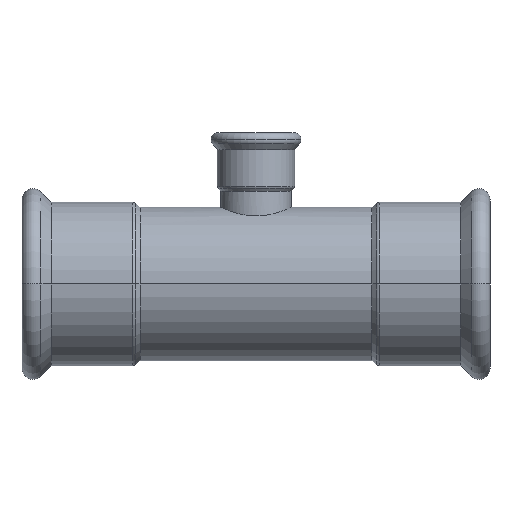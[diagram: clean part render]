
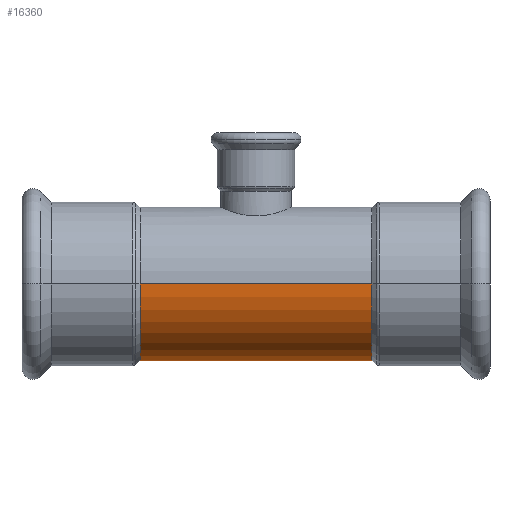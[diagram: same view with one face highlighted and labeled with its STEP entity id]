
A CAD part, front view. The second image highlights one B-rep face of the part: STEP entity #16360.
In plain terms, the highlighted cylindrical face has radius 38.05 mm (diameter 76.1 mm), a partial arc.
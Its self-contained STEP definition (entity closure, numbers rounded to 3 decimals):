
#2530=CARTESIAN_POINT('',(-346.011,147.522,-38.05));
#2540=VERTEX_POINT('',#2530);
#2720=CARTESIAN_POINT('',(-346.011,147.522,38.05));
#2730=VERTEX_POINT('',#2720);
#2760=CARTESIAN_POINT('',(-346.011,147.522,0.));
#2770=DIRECTION('',(1.,0.,0.));
#2780=DIRECTION('',(0.,0.,-1.));
#2790=AXIS2_PLACEMENT_3D('',#2760,#2770,#2780);
#2800=CIRCLE('',#2790,38.05);
#2810=EDGE_CURVE('',#2730,#2540,#2800,.T.);
#4440=CARTESIAN_POINT('',(-231.011,147.522,0.));
#4450=DIRECTION('',(1.,0.,0.));
#4460=DIRECTION('',(0.,0.,-1.));
#4470=AXIS2_PLACEMENT_3D('',#4440,#4450,#4460);
#4480=CYLINDRICAL_SURFACE('',#4470,38.05);
#15870=CARTESIAN_POINT('',(-231.011,147.522,38.05));
#15880=VERTEX_POINT('',#15870);
#16060=CARTESIAN_POINT('',(-231.011,147.522,-38.05));
#16070=VERTEX_POINT('',#16060);
#16100=CARTESIAN_POINT('',(-231.011,147.522,0.));
#16110=DIRECTION('',(1.,0.,0.));
#16120=DIRECTION('',(0.,0.,-1.));
#16130=AXIS2_PLACEMENT_3D('',#16100,#16110,#16120);
#16140=CIRCLE('',#16130,38.05);
#16150=EDGE_CURVE('',#15880,#16070,#16140,.T.);
#16200=CARTESIAN_POINT('',(-231.011,147.522,38.05));
#16210=DIRECTION('',(1.,0.,0.));
#16220=VECTOR('',#16210,1.);
#16230=LINE('',#16200,#16220);
#16240=EDGE_CURVE('',#2730,#15880,#16230,.T.);
#16250=ORIENTED_EDGE('',*,*,#16240,.F.);
#16260=ORIENTED_EDGE('',*,*,#16150,.F.);
#16270=CARTESIAN_POINT('',(-231.011,147.522,-38.05));
#16280=DIRECTION('',(1.,0.,0.));
#16290=VECTOR('',#16280,1.);
#16300=LINE('',#16270,#16290);
#16310=EDGE_CURVE('',#2540,#16070,#16300,.T.);
#16320=ORIENTED_EDGE('',*,*,#16310,.T.);
#16330=ORIENTED_EDGE('',*,*,#2810,.T.);
#16340=EDGE_LOOP('',(#16330,#16320,#16260,#16250));
#16350=FACE_OUTER_BOUND('',#16340,.T.);
#16360=ADVANCED_FACE('',(#16350),#4480,.T.);
